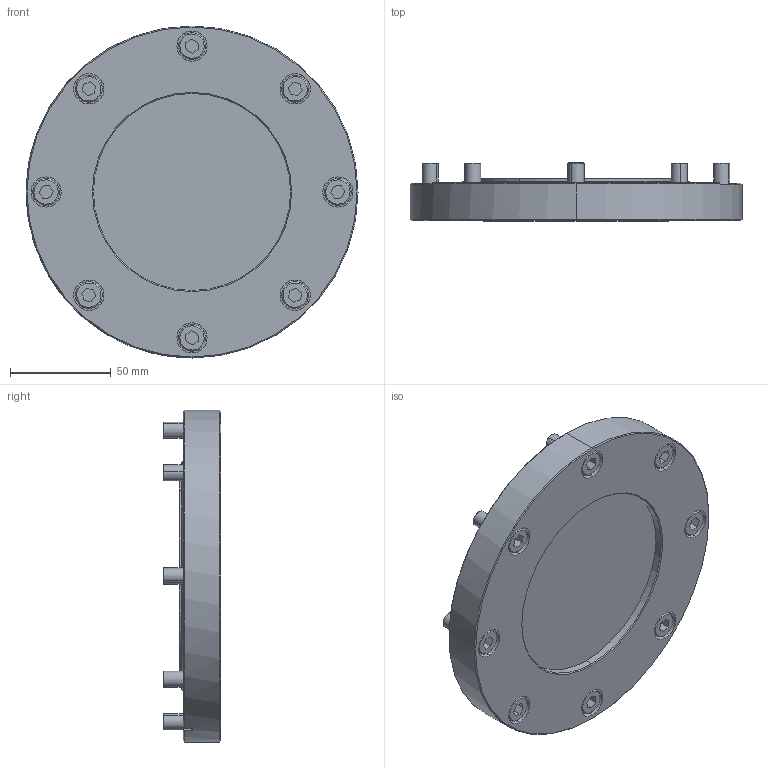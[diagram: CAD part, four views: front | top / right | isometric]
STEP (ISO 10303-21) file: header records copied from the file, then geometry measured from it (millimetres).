
FILE_DESCRIPTION (( 'STEP AP214' ), '1' );
FILE_NAME ('JK100-G-A-V-20200417.STEP', '2020-05-03T05:30:08', ( '' ), ( '' ), 'SwSTEP 2.0', 'SolidWorks 2018', '' );
FILE_SCHEMA (( 'AUTOMOTIVE_DESIGN' ));
Length unit declared in the file: millimetre
Products named in the file (6): COM-001-M8-20_ル遽; JK100-02B; JK100-03G; JK100-04A; JK100-01F; JK100-G-A-V-20200417
Assembly tree (12 placements, depth 2):
  JK100-G-A-V-20200417
    JK100-03G
    JK100-04A
    JK100-01F
    JK100-02B
    COM-001-M8-20_ル遽  x8
Bounding box: 165 x 28.6 x 165 mm (x, y, z)
Volume: 327608.9 mm3; surface area: 96964.5 mm2
Topology: 12 solids, 12 shells, 259 faces, 570 edges, 360 vertices
Faces by surface type: plane 101, cylinder 82, cone 49, torus 27
Entity records: 4288 total; most frequent: CARTESIAN_POINT 822, DIRECTION 752, ORIENTED_EDGE 608, AXIS2_PLACEMENT_3D 328, EDGE_CURVE 304, VERTEX_POINT 192, CIRCLE 180, EDGE_LOOP 166
